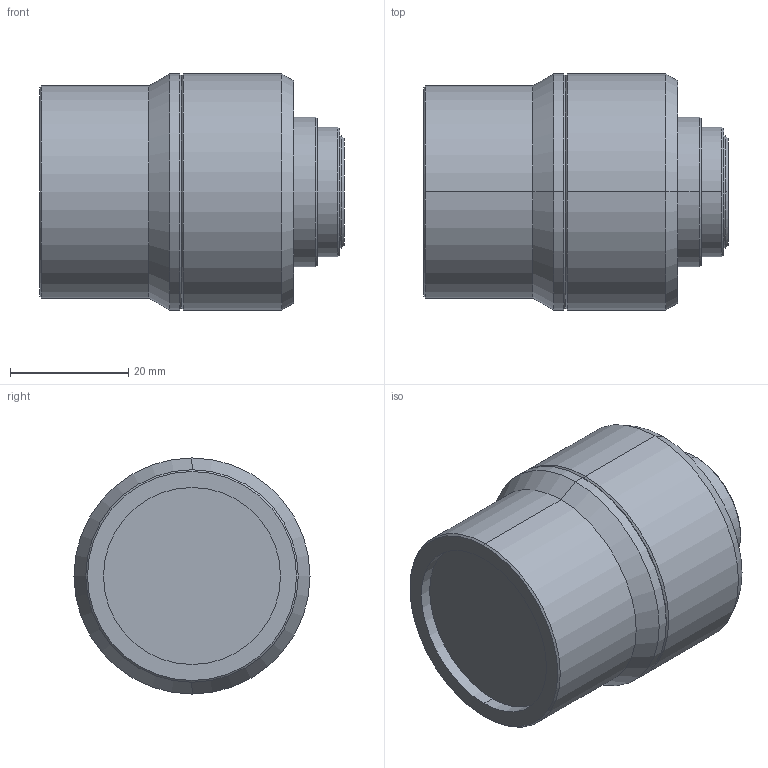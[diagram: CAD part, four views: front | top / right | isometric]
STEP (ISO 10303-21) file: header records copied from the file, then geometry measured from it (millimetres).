
FILE_DESCRIPTION (( 'STEP AP203' ), '1' );
FILE_NAME ('WWT118-025-160.STEP', '2021-07-30T00:45:18', ( '' ), ( '' ), 'SwSTEP 2.0', 'SolidWorks 2017', '' );
FILE_SCHEMA (( 'CONFIG_CONTROL_DESIGN' ));
Length unit declared in the file: millimetre
Products named in the file (1): WWT118-025-160
Bounding box: 51.6 x 40 x 40 mm (x, y, z)
Volume: 51305 mm3; surface area: 8160.9 mm2
Topology: 1 solids, 1 shells, 36 faces, 70 edges, 40 vertices
Faces by surface type: cone 16, cylinder 14, plane 6
Entity records: 991 total; most frequent: DIRECTION 184, CARTESIAN_POINT 147, ORIENTED_EDGE 140, AXIS2_PLACEMENT_3D 77, EDGE_CURVE 70, EDGE_LOOP 40, VERTEX_POINT 40, CIRCLE 40
